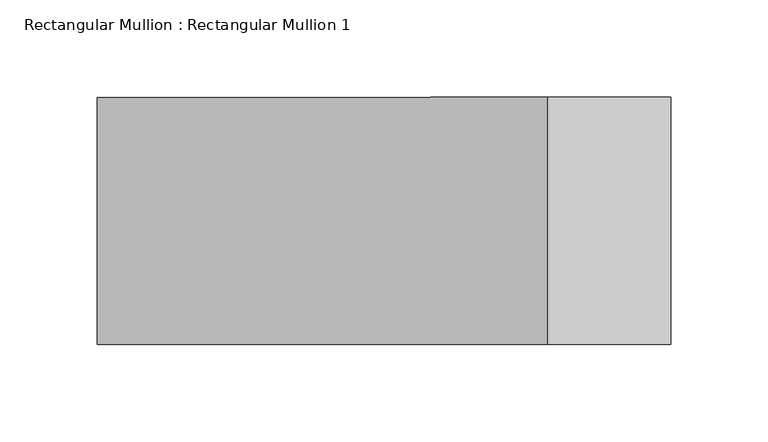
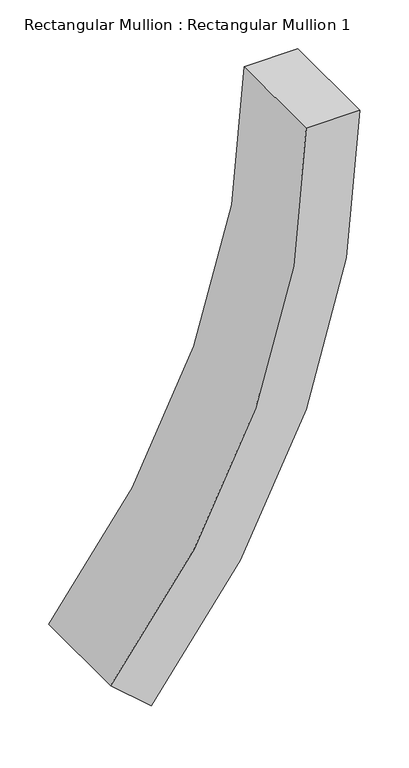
"""IFC4 building model written with IfcOpenShell, lengths in millimetres: member geometry, Rectangular Mullion : Rectangular Mullion 1."""

from ifc_helpers import new_model, si_unit, point, frame, frame_2d, origin, place, context, project, spatial, polyline, circle_curve, trimmed, segment, composite_curve, outline, extrude, source, transform, mapped, element, save


def rectangular_mullion_rectangular_mullion_1_03948899(model_context):
    return source(origin(), model_context, "Body", "SweptSolid", [
        extrude(outline(composite_curve([segment(trimmed(circle_curve(frame_2d((0.0, -1000.0)), 1000.0), [point((-657.638874, -246.6666665))], [point((0.0, 0.0))], False, "CARTESIAN"), True, "CONTINUOUS"), segment(polyline([(0.0, 0.0), (0.0, -63.5)]), True, "CONTINUOUS"), segment(trimmed(circle_curve(frame_2d((0.0, -1000.0)), 936.5), [point((0.0, -63.5))], [point((-615.8788055, -294.5033331))], True, "CARTESIAN"), True, "CONTINUOUS"), segment(polyline([(-615.8788055, -294.5033331), (-657.638874, -246.6666665)]), True, "CONTINUOUS")], self_intersect=False)), frame((0.0, -63.5, 0.0), z_axis=(0.0, 1.0, 0.0), x_axis=(0.0, 0.0, 1.0)), (0.0, 0.0, 1.0), 127.0),
    ])


if __name__ == "__main__":
    model = new_model("IFC4")
    model_context = context("Model", 3, world=origin())
    ifc_project = project(units=[si_unit("LENGTHUNIT", "METRE", prefix="MILLI")], contexts=[model_context])
    site = spatial("IfcSite", under=ifc_project)
    building = spatial("IfcBuilding", under=site)
    placement = place(None, origin())
    rectangular_mullion_rectangular_mullion_1_shape = rectangular_mullion_rectangular_mullion_1_03948899(model_context)
    element("IfcMember", 1, ObjectType="Rectangular Mullion : Rectangular Mullion 1", at=placement, inside=building, context=model_context, shape_type="MappedRepresentation", body=[
        mapped(rectangular_mullion_rectangular_mullion_1_shape, transform((0.0, 0.0, 0.0), x_axis=(1.0, 0.0, 0.0), y_axis=(0.0, 1.0, 0.0), z_axis=(0.0, 0.0, 1.0))),
    ])
    save(model, "model.ifc")
